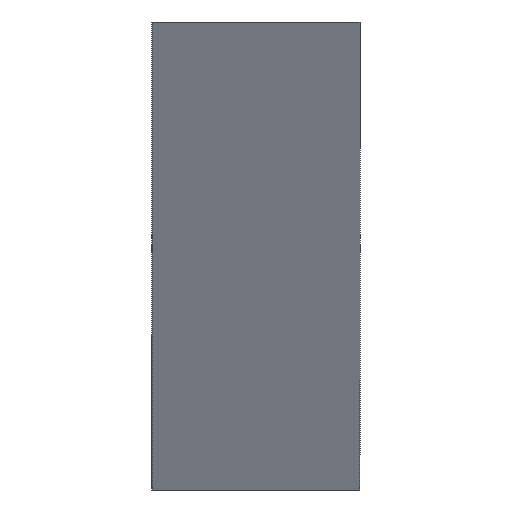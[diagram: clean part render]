
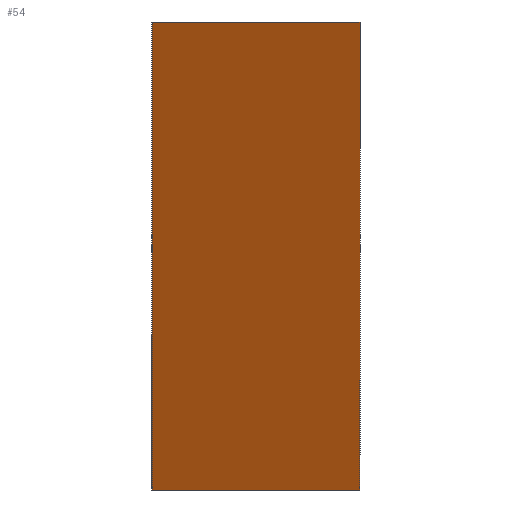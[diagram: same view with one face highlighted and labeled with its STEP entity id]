
A CAD part, front view. The second image highlights one B-rep face of the part: STEP entity #54.
In plain terms, the highlighted planar face has unit normal (-0.545, -0.839, 0).
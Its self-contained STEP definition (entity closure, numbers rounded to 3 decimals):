
#54=ADVANCED_FACE('',(#68),#69,.T.);
#68=FACE_OUTER_BOUND('',#87,.T.);
#69=PLANE('',#88);
#87=EDGE_LOOP('',(#122,#123,#124,#125));
#88=AXIS2_PLACEMENT_3D('',#126,#127,#128);
#122=ORIENTED_EDGE('',*,*,#166,.T.);
#123=ORIENTED_EDGE('',*,*,#172,.F.);
#124=ORIENTED_EDGE('',*,*,#173,.F.);
#125=ORIENTED_EDGE('',*,*,#168,.T.);
#126=CARTESIAN_POINT('',(0.001,-0.002,-11.441));
#127=DIRECTION('',(-0.545,-0.839,-0.0));
#128=DIRECTION('',(0.0,0.0,-1.0));
#166=EDGE_CURVE('',#191,#189,#192,.T.);
#168=EDGE_CURVE('',#194,#191,#195,.T.);
#172=EDGE_CURVE('',#200,#189,#201,.T.);
#173=EDGE_CURVE('',#194,#200,#202,.T.);
#189=VERTEX_POINT('',#222);
#191=VERTEX_POINT('',#225);
#192=LINE('',#226,#227);
#194=VERTEX_POINT('',#230);
#195=LINE('',#231,#232);
#200=VERTEX_POINT('',#239);
#201=LINE('',#240,#241);
#202=LINE('',#242,#243);
#222=CARTESIAN_POINT('',(-3.999,2.595,-2.441));
#225=CARTESIAN_POINT('',(0.001,-0.002,-2.441));
#226=CARTESIAN_POINT('',(-7.105,4.613,-2.441));
#227=VECTOR('',#262,1.0);
#230=CARTESIAN_POINT('',(0.001,-0.002,-11.441));
#231=CARTESIAN_POINT('',(0.001,-0.002,-11.441));
#232=VECTOR('',#264,0.34);
#239=CARTESIAN_POINT('',(-3.999,2.595,-11.441));
#240=CARTESIAN_POINT('',(-3.999,2.595,-11.441));
#241=VECTOR('',#270,0.34);
#242=CARTESIAN_POINT('',(0.001,-0.002,-11.441));
#243=VECTOR('',#271,1.);
#262=DIRECTION('',(-0.839,0.545,0.0));
#264=DIRECTION('',(0.0,0.0,1.0));
#270=DIRECTION('',(0.0,0.0,1.0));
#271=DIRECTION('',(-0.839,0.545,0.0));
